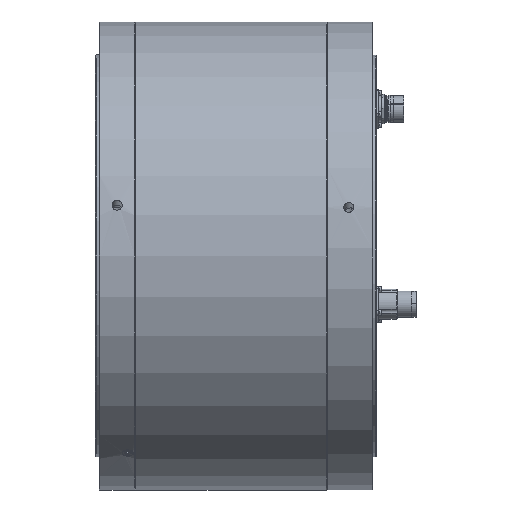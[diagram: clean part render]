
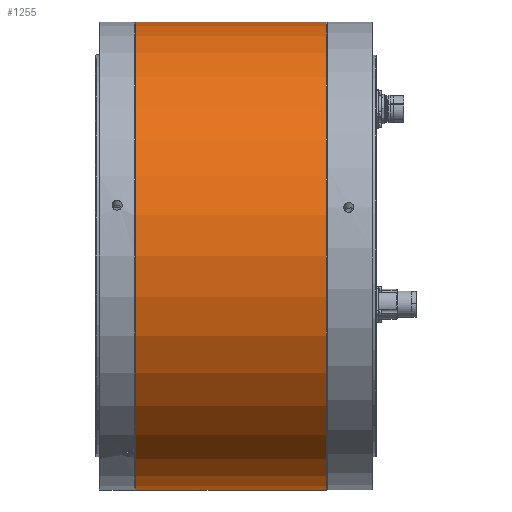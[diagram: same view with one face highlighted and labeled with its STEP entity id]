
A CAD part, front view. The second image highlights one B-rep face of the part: STEP entity #1255.
In plain terms, the highlighted cylindrical face has radius 195 mm (diameter 390 mm), a full revolution.
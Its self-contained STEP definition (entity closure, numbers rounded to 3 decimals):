
#1255 = ADVANCED_FACE( '', ( #2571, #2572 ), #2573, .T. );
#2571 = FACE_OUTER_BOUND( '', #4966, .T. );
#2572 = FACE_OUTER_BOUND( '', #4967, .T. );
#2573 = CYLINDRICAL_SURFACE( '', #4968, 195. );
#4966 = EDGE_LOOP( '', ( #7719 ) );
#4967 = EDGE_LOOP( '', ( #7720 ) );
#4968 = AXIS2_PLACEMENT_3D( '', #7721, #7722, #7723 );
#7719 = ORIENTED_EDGE( '', *, *, #11558, .T. );
#7720 = ORIENTED_EDGE( '', *, *, #11559, .T. );
#7721 = CARTESIAN_POINT( '', ( -60., 0., 0. ) );
#7722 = DIRECTION( '', ( 1., 0., 0. ) );
#7723 = DIRECTION( '', ( 0., 0., 1. ) );
#11558 = EDGE_CURVE( '', #14128, #14128, #14129, .F. );
#11559 = EDGE_CURVE( '', #14130, #14130, #14131, .F. );
#14128 = VERTEX_POINT( '', #16250 );
#14129 = CIRCLE( '', #16251, 195. );
#14130 = VERTEX_POINT( '', #16252 );
#14131 = CIRCLE( '', #16253, 195. );
#16250 = CARTESIAN_POINT( '', ( 0.5, 0., 195. ) );
#16251 = AXIS2_PLACEMENT_3D( '', #19242, #19243, #19244 );
#16252 = CARTESIAN_POINT( '', ( 159.5, 0., -195. ) );
#16253 = AXIS2_PLACEMENT_3D( '', #19245, #19246, #19247 );
#19242 = CARTESIAN_POINT( '', ( 0.5, 0., 0. ) );
#19243 = DIRECTION( '', ( -1., 0., 0. ) );
#19244 = DIRECTION( '', ( 0., 0., 1. ) );
#19245 = CARTESIAN_POINT( '', ( 159.5, 0., 0. ) );
#19246 = DIRECTION( '', ( 1., 0., 0. ) );
#19247 = DIRECTION( '', ( 0., 0., -1. ) );
